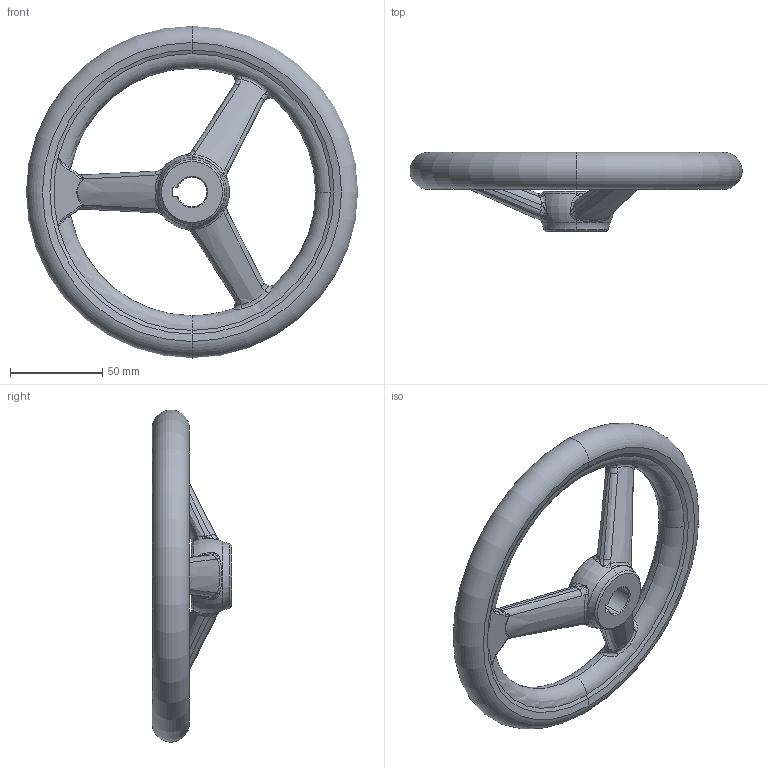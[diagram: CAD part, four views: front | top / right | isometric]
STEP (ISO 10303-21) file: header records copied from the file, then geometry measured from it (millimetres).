
FILE_DESCRIPTION (( 'STEP AP203' ), '1' );
FILE_NAME ('din950_a3_180x16.step', '2010-03-23T09:48:55', ( '_' ), ( '_' ), 'SwSTEP 2.0', 'SolidWorks 2010', '' );
FILE_SCHEMA (( 'CONFIG_CONTROL_DESIGN' ));
Length unit declared in the file: millimetre
Products named in the file (1): din950_a3_180x16
Bounding box: 179.93 x 43 x 179.93 mm (x, y, z)
Volume: 227376.2 mm3; surface area: 46094.1 mm2
Topology: 1 solids, 1 shells, 190 faces, 473 edges, 253 vertices
Faces by surface type: bspline 130, torus 21, cone 18, plane 13, cylinder 8
Entity records: 26386 total; most frequent: CARTESIAN_POINT 22771, ORIENTED_EDGE 894, DIRECTION 478, EDGE_CURVE 447, VERTEX_POINT 253, B_SPLINE_CURVE_WITH_KNOTS 249, AXIS2_PLACEMENT_3D 223, EDGE_LOOP 192
